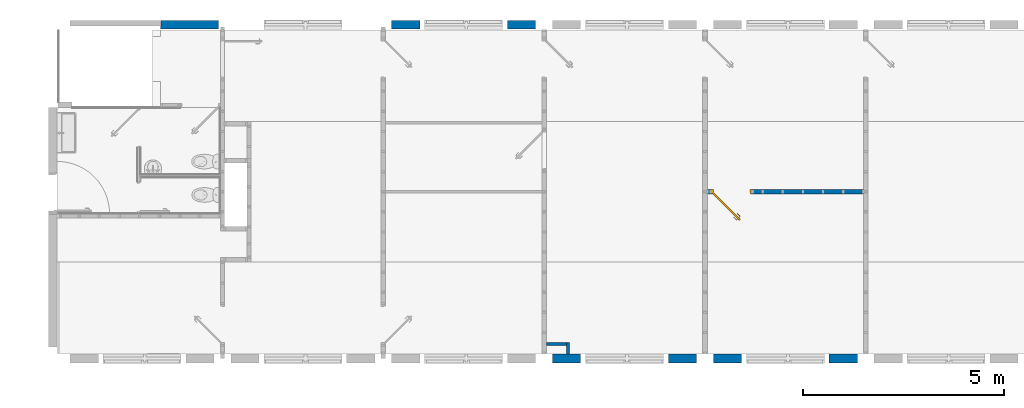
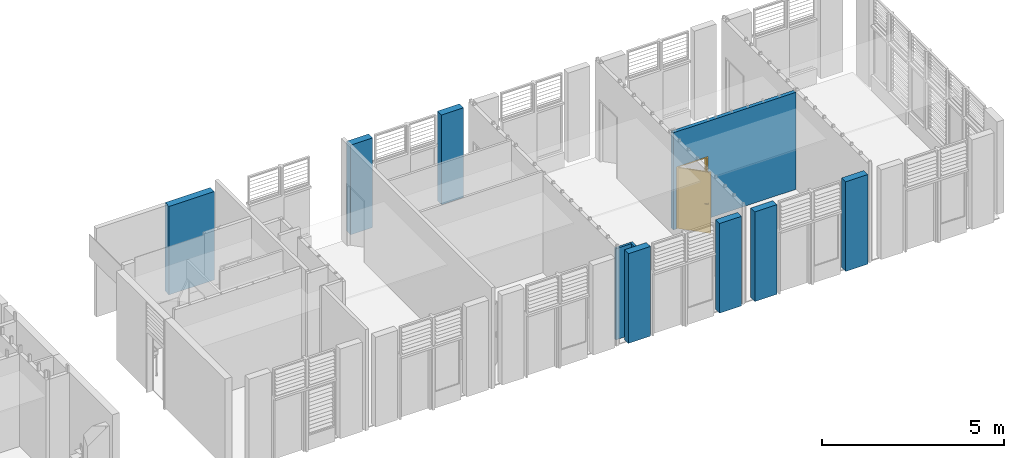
# One storey, part 11 of 20: 10 walls, 1 door, 1 opening.
"""IFC2X3 building model written with IfcOpenShell, lengths in metres."""

from ifc_helpers import new_model, entity, si_unit, converted_unit, derived_unit, direction, frame, frame_2d, origin, place, context, subcontext, project, spatial, polyline, rectangle, extrude, clip, bounded_halfspace, faceted_brep, source, transform, mapped, material, layer, layer_set, layer_usage, type_object, type_shapes, element, fill, save


model = new_model("IFC2X3")

# Units and contexts
model_context = context("Model", 3, precision=1e-05, world=origin(), true_north=direction((6.12303176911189e-17, 1.0)))
body_context = subcontext(model_context, "Body", "Model", "MODEL_VIEW")
ifc_project = project(units=[si_unit("LENGTHUNIT", "METRE"), si_unit("AREAUNIT", "SQUARE_METRE"), si_unit("VOLUMEUNIT", "CUBIC_METRE"), converted_unit("PLANEANGLEUNIT", "DEGREE", entity("IfcRatioMeasure", 0.0174532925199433), si_unit("PLANEANGLEUNIT", "RADIAN"), dimensions=[0, 0, 0, 0, 0, 0, 0]), si_unit("MASSUNIT", "GRAM", prefix="KILO"), derived_unit("MASSDENSITYUNIT", [(si_unit("MASSUNIT", "GRAM", prefix="KILO"), 1), (si_unit("LENGTHUNIT", "METRE"), -3)]), si_unit("TIMEUNIT", "SECOND"), si_unit("FREQUENCYUNIT", "HERTZ"), si_unit("THERMODYNAMICTEMPERATUREUNIT", "DEGREE_CELSIUS"), derived_unit("THERMALTRANSMITTANCEUNIT", [(si_unit("MASSUNIT", "GRAM", prefix="KILO"), 1), (si_unit("THERMODYNAMICTEMPERATUREUNIT", "KELVIN"), -1), (si_unit("TIMEUNIT", "SECOND"), -3)]), derived_unit("VOLUMETRICFLOWRATEUNIT", [(si_unit("LENGTHUNIT", "METRE"), 3), (si_unit("TIMEUNIT", "SECOND"), -1)]), si_unit("ELECTRICCURRENTUNIT", "AMPERE"), si_unit("ELECTRICVOLTAGEUNIT", "VOLT"), si_unit("POWERUNIT", "WATT"), si_unit("FORCEUNIT", "NEWTON", prefix="KILO"), si_unit("ILLUMINANCEUNIT", "LUX"), si_unit("LUMINOUSFLUXUNIT", "LUMEN"), si_unit("LUMINOUSINTENSITYUNIT", "CANDELA"), derived_unit("USERDEFINED", [(si_unit("MASSUNIT", "GRAM", prefix="KILO"), -1), (si_unit("LENGTHUNIT", "METRE"), -2), (si_unit("TIMEUNIT", "SECOND"), 3), (si_unit("LUMINOUSFLUXUNIT", "LUMEN"), 1)]), derived_unit("LINEARVELOCITYUNIT", [(si_unit("LENGTHUNIT", "METRE"), 1), (si_unit("TIMEUNIT", "SECOND"), -1)]), si_unit("PRESSUREUNIT", "PASCAL"), derived_unit("USERDEFINED", [(si_unit("LENGTHUNIT", "METRE"), -2), (si_unit("MASSUNIT", "GRAM", prefix="KILO"), 1), (si_unit("TIMEUNIT", "SECOND"), -2)])], contexts=[model_context])

# Site, building, storey
site_placement = place(None, origin())
site = spatial("IfcSite", under=ifc_project, at=site_placement, Name="Surface", CompositionType="ELEMENT")
building_placement = place(site_placement, origin())
building = spatial("IfcBuilding", under=site, at=building_placement, Name="ExPREF", CompositionType="ELEMENT")
storey_placement = place(building_placement, frame((0.0, 0.0, 4.27)))
storey = spatial("IfcBuildingStorey", under=building, at=storey_placement, Name="R+1", CompositionType="ELEMENT", Elevation=4.27)

# Wall, opening, door
ifc_material_1 = material(Name="AA-mur cloison finition")
ifc_layer_1 = layer(ifc_material_1, 0.018)
ifc_material_2 = material(Name="AA-isolant plancher")
ifc_layer_2 = layer(ifc_material_2, 0.08)
ifc_layer_3 = layer(ifc_material_1, 0.018)
ifc_layer_set_1 = layer_set([ifc_layer_1, ifc_layer_2, ifc_layer_3], Name="Mur de base:A-cloison CP 11.6 cm")
ifc_layer_usage_1 = layer_usage(ifc_layer_set_1, "AXIS2", "NEGATIVE", 0.058)
wall_type_1 = type_object("IfcWallType", Name="Mur de base:A-cloison CP 11.6 cm", PredefinedType="STANDARD", material=ifc_layer_set_1)
wall_1_placement = place(storey_placement, frame((65.4317436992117, -189.208069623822, 0.0), z_axis=(0.0, 0.0, 1.0), x_axis=(-1.0, 0.0, 0.0)))
wall_1 = element("IfcWallStandardCase", 1, at=wall_1_placement, inside=storey, type_object=wall_type_1, material=ifc_layer_usage_1, Name="Mur de base:A-cloison CP 11.6 cm", ObjectType="Mur de base:A-cloison CP 11.6 cm", context=body_context, shape_type="SweptSolid", body=[
    extrude(rectangle(XDim=3.88399999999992, YDim=0.115999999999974, at=frame_2d((1.94199999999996, 0.0), x_axis=(-1.0, 0.0))), origin(), (0.0, 0.0, 1.0), 3.24999999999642),
])
opening_placement = place(wall_1_placement, frame((2.77700000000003, -0.058, 0.0)))
opening = element("IfcOpeningElement", 2, at=opening_placement, cuts=wall_1, Name="Porte intérieur bois:PP (0.93m x 2.04m):1", ObjectType="Opening", context=body_context, shape_type="SweptSolid", body=[
    extrude(rectangle(XDim=2.075, YDim=1.0, at=frame_2d((1.0375, 0.5), x_axis=(1.0, 0.0))), frame((0.0, 0.0, 0.0), z_axis=(0.0, 1.0, 0.0), x_axis=(0.0, 0.0, 1.0)), (0.0, 0.0, 1.0), 0.116),
])
ifc_material_3 = material(Name="AA-Blanc satiné")
door_style = type_object("IfcDoorStyle", Name="PP (0.93m x 2.04m)", ConstructionType="NOTDEFINED", OperationType="SINGLE_SWING_RIGHT", ParameterTakesPrecedence=False, Sizeable=False, material=ifc_material_3)
shared_shape = source(origin(), body_context, "Body", "Brep", [
    faceted_brep([(0.750570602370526, -0.581930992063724, 0.992219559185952), (0.753434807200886, -0.584795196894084, 0.99221955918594), (0.756245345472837, -0.587605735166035, 0.992999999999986), (0.756245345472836, -0.587605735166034, 1.007), (0.75343480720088, -0.584795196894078, 1.00778044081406), (0.75057060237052, -0.581930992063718, 1.00778044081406), (0.747760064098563, -0.579120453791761, 1.007), (0.747760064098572, -0.57912045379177, 0.993000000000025), (0.763659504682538, -0.563221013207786, 1.007), (0.763659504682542, -0.563221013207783, 0.993000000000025), (0.767634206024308, -0.56486738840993, 1.00778044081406), (0.771684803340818, -0.56654520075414, 1.00778044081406), (0.771684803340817, -0.543654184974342, 1.00778044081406), (0.767634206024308, -0.545331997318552, 1.00778044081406), (0.775659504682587, -0.568191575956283, 1.007), (0.775659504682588, -0.568191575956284, 0.992999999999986), (0.771684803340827, -0.566545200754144, 0.99221955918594), (0.767634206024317, -0.564867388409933, 0.992219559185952), (0.767634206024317, -0.545331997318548, 0.992219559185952), (0.771684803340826, -0.543654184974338, 0.99221955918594), (0.763659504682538, -0.546978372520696, 1.007), (0.763659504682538, -0.546978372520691, 0.993000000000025), (0.775659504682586, -0.542007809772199, 1.007), (0.775659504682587, -0.542007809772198, 0.992999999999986), (0.708090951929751, -0.485788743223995, 1.00778044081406), (0.710955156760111, -0.482924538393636, 1.00778044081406), (0.713765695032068, -0.480114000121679, 1.007), (0.713765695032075, -0.480114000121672, 0.992999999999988), (0.710955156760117, -0.48292453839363, 0.99221955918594), (0.708090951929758, -0.485788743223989, 0.992219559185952), (0.705280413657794, -0.488599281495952, 0.993000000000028), (0.705280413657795, -0.488599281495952, 1.007), (0.734469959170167, -0.517788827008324, 1.007), (0.734469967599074, -0.517788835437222, 0.993000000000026), (0.739294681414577, -0.51412826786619, 1.0078786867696), (0.747424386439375, -0.513772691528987, 1.007), (0.747424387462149, -0.513772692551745, 0.992999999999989), (0.739294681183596, -0.514128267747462, 0.992121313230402)], [[[0, 1, 2, 3, 4, 5, 6, 7]], [[8, 9, 7, 6]], [[5, 10, 8, 6]], [[5, 4, 11, 12, 13, 10]], [[3, 14, 11, 4]], [[14, 3, 2, 15]], [[2, 1, 16, 15]], [[1, 0, 17, 18, 19, 16]], [[0, 7, 9, 17]], [[20, 21, 9, 8]], [[8, 10, 13, 20]], [[14, 22, 12, 11]], [[23, 22, 14, 15]], [[15, 16, 19, 23]], [[17, 9, 21, 18]], [[24, 25, 26, 27, 28, 29, 30, 31]], [[21, 20, 32, 31, 30, 33]], [[34, 24, 32]], [[25, 34, 35]], [[13, 32, 20]], [[24, 31, 32]], [[25, 35, 26]], [[35, 12, 22]], [[34, 12, 35]], [[34, 13, 12]], [[34, 32, 13]], [[24, 34, 25]], [[22, 23, 36, 27, 26, 35]], [[37, 28, 36]], [[36, 28, 27]], [[36, 23, 19]], [[18, 33, 37]], [[33, 18, 21]], [[30, 29, 33]], [[37, 29, 28]], [[37, 33, 29]], [[37, 36, 19]], [[18, 37, 19]]]),
    faceted_brep([(0.715215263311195, -0.617286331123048, 1.00778044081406), (0.718079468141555, -0.620150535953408, 1.00778044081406), (0.720890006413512, -0.622961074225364, 1.00699999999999), (0.720890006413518, -0.622961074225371, 0.992999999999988), (0.718079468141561, -0.620150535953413, 0.99221955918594), (0.715215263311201, -0.617286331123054, 0.992219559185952), (0.712404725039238, -0.614475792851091, 0.993000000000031), (0.712404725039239, -0.614475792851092, 1.007), (0.699691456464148, -0.638538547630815, 1.00778044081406), (0.701337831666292, -0.642513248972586, 1.007), (0.698013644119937, -0.634487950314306, 1.00778044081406), (0.678672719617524, -0.634487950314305, 1.00778044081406), (0.676994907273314, -0.638538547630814, 1.00778044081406), (0.696367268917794, -0.630513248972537, 1.007), (0.696367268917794, -0.630513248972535, 0.993000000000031), (0.698013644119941, -0.634487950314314, 0.992219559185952), (0.699691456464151, -0.638538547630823, 0.99221955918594), (0.676994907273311, -0.638538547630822, 0.99221955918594), (0.678672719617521, -0.634487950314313, 0.992219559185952), (0.701337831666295, -0.642513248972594, 0.992999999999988), (0.67534853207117, -0.642513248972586, 1.007), (0.680319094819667, -0.630513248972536, 1.007), (0.680319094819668, -0.630513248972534, 0.993000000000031), (0.675348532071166, -0.642513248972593, 0.992999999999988), (0.613376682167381, -0.580541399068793, 1.007), (0.616187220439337, -0.577730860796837, 1.00778044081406), (0.619051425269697, -0.574866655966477, 1.00778044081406), (0.621861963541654, -0.57205611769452, 1.00699999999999), (0.621861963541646, -0.572056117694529, 0.993000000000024), (0.619051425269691, -0.574866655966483, 0.992219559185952), (0.616187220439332, -0.577730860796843, 0.99221955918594), (0.613376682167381, -0.580541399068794, 0.992999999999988), (0.647429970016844, -0.606109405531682, 1.0078786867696), (0.647113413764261, -0.614278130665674, 1.007), (0.651090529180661, -0.601284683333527, 1.007), (0.651090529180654, -0.601284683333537, 0.993000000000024), (0.64742997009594, -0.606109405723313, 0.992121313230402), (0.64711341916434, -0.61427813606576, 0.992999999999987)], [[[0, 1, 2, 3, 4, 5, 6, 7]], [[2, 1, 8, 9]], [[1, 0, 10, 11, 12, 8]], [[0, 7, 13, 10]], [[14, 13, 7, 6]], [[5, 15, 14, 6]], [[5, 4, 16, 17, 18, 15]], [[3, 19, 16, 4]], [[9, 19, 3, 2]], [[9, 8, 12, 20]], [[10, 13, 21, 11]], [[22, 21, 13, 14]], [[14, 15, 18, 22]], [[16, 19, 23, 17]], [[20, 23, 19, 9]], [[24, 25, 26, 27, 28, 29, 30, 31]], [[32, 25, 33]], [[33, 25, 24]], [[33, 20, 12]], [[11, 34, 32]], [[34, 11, 21]], [[27, 26, 34]], [[32, 26, 25]], [[32, 34, 26]], [[32, 33, 12]], [[11, 32, 12]], [[21, 22, 35, 28, 27, 34]], [[36, 29, 35]], [[30, 36, 37]], [[18, 35, 22]], [[29, 28, 35]], [[30, 37, 31]], [[37, 17, 23]], [[36, 17, 37]], [[36, 18, 17]], [[36, 35, 18]], [[29, 36, 30]], [[23, 20, 33, 24, 31, 37]]]),
    faceted_brep([(0.762609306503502, -0.601040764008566, 0.870000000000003), (0.762609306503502, -0.601040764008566, 1.08), (0.75578767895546, -0.594219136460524, 1.08399601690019), (0.748467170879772, -0.586898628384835, 1.08535898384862), (0.741146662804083, -0.579578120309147, 1.08399601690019), (0.734325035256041, -0.572756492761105, 1.08), (0.73432503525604, -0.572756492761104, 0.870000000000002), (0.741146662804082, -0.579578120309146, 0.866003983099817), (0.748467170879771, -0.586898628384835, 0.86464101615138), (0.755787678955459, -0.594219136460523, 0.866003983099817), (0.752002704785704, -0.583363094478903, 1.08535898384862), (0.759323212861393, -0.590683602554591, 1.08399601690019), (0.766144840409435, -0.597505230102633, 1.08), (0.766144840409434, -0.597505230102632, 0.870000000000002), (0.759323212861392, -0.59068360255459, 0.866003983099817), (0.752002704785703, -0.583363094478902, 0.86464101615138), (0.744682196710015, -0.576042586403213, 0.866003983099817), (0.737860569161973, -0.569220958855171, 0.870000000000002), (0.737860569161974, -0.569220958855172, 1.08), (0.744682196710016, -0.576042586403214, 1.08399601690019)], [[[0, 1, 2, 3, 4, 5, 6, 7, 8, 9]], [[10, 11, 12, 13, 14, 15, 16, 17, 18, 19]], [[4, 19, 18, 5]], [[3, 10, 19, 4]], [[2, 11, 10, 3]], [[2, 1, 12, 11]], [[13, 12, 1, 0]], [[9, 14, 13, 0]], [[8, 15, 14, 9]], [[7, 16, 15, 8]], [[7, 6, 17, 16]], [[17, 6, 5, 18]]]),
    faceted_brep([(0.730789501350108, -0.632860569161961, 0.870000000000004), (0.730789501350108, -0.632860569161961, 1.08), (0.723967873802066, -0.626038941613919, 1.08399601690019), (0.716647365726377, -0.61871843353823, 1.08535898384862), (0.709326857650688, -0.611397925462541, 1.08399601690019), (0.702505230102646, -0.604576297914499, 1.08), (0.702505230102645, -0.604576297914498, 0.870000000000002), (0.709326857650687, -0.61139792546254, 0.866003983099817), (0.716647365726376, -0.618718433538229, 0.86464101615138), (0.723967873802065, -0.626038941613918, 0.866003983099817), (0.73432503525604, -0.629325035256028, 1.08), (0.73432503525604, -0.629325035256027, 0.870000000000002), (0.727503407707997, -0.622503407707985, 0.866003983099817), (0.720182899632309, -0.615182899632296, 0.86464101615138), (0.71286239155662, -0.607862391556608, 0.866003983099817), (0.706040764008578, -0.601040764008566, 0.870000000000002), (0.706040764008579, -0.601040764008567, 1.08), (0.712862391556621, -0.607862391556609, 1.08399601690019), (0.72018289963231, -0.615182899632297, 1.08535898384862), (0.727503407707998, -0.622503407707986, 1.08399601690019)], [[[0, 1, 2, 3, 4, 5, 6, 7, 8, 9]], [[10, 11, 12, 13, 14, 15, 16, 17, 18, 19]], [[9, 12, 11, 0]], [[8, 13, 12, 9]], [[7, 14, 13, 8]], [[7, 6, 15, 14]], [[15, 6, 5, 16]], [[4, 17, 16, 5]], [[3, 18, 17, 4]], [[2, 19, 18, 3]], [[2, 1, 10, 19]], [[11, 10, 1, 0]]]),
    faceted_brep([(0.790893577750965, -0.629325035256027, 2.04), (0.790893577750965, -0.629325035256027, 0.0), (0.133284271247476, 0.0282842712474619, 0.0), (0.133284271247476, 0.0282842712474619, 2.04), (0.762609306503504, -0.657609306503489, 2.04), (0.105000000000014, 0.0, 2.04), (0.105000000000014, 0.0, 0.0), (0.762609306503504, -0.657609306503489, 0.0)], [[[0, 1, 2, 3]], [[4, 5, 6, 7]], [[3, 5, 4, 0]], [[2, 6, 5, 3]], [[1, 7, 6, 2]], [[0, 4, 7, 1]]]),
    faceted_brep([(1.07000000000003, 0.0, 0.0), (1.03500000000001, 0.0, 0.0), (1.03500000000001, 0.0400000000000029, 0.0), (1.02000000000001, 0.0400000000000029, 0.0), (1.02000000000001, 0.116000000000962, 0.0), (1.07000000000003, 0.116000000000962, 0.0), (1.07000000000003, 0.116000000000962, 2.07500000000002), (1.07000000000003, 0.0, 2.07500000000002), (1.02000000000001, 0.116000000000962, 2.025), (0.120000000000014, 0.116000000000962, 2.025), (0.120000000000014, 0.116000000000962, 0.0), (0.0699999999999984, 0.116000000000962, 0.0), (0.0699999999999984, 0.116000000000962, 2.07500000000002), (1.02000000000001, 0.0400000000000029, 2.025), (1.03500000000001, 0.0400000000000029, 2.04), (0.105000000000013, 0.0400000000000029, 2.04), (0.105000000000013, 0.0400000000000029, 0.0), (0.120000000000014, 0.0400000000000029, 0.0), (0.120000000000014, 0.0400000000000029, 2.025), (1.03500000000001, 0.0, 2.04), (0.0699999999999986, 0.0, 2.07500000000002), (0.0699999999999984, 0.0, 0.0), (0.105000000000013, 0.0, 0.0), (0.105000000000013, 0.0, 2.04)], [[[0, 1, 2, 3, 4, 5]], [[5, 6, 7, 0]], [[4, 8, 9, 10, 11, 12, 6, 5]], [[3, 13, 8, 4]], [[2, 14, 15, 16, 17, 18, 13, 3]], [[1, 19, 14, 2]], [[0, 7, 20, 21, 22, 23, 19, 1]], [[12, 11, 21, 20]], [[21, 11, 10, 17, 16, 22]], [[18, 17, 10, 9]], [[23, 22, 16, 15]], [[6, 12, 20, 7]], [[13, 18, 9, 8]], [[19, 23, 15, 14]]]),
])
type_shapes(door_style, [shared_shape])
door_placement = place(opening_placement, frame((1.07000000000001, 0.115999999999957, 0.0), z_axis=(0.0, 0.0, 1.0), x_axis=(-1.0, 0.0, 0.0)))
door = element("IfcDoor", 3, at=door_placement, inside=storey, type_object=door_style, material=ifc_material_3, Name="Porte intérieur bois:PP (0.93m x 2.04m)", ObjectType="PP (0.93m x 2.04m)", OverallHeight=2.075, OverallWidth=0.999999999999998, context=body_context, shape_type="MappedRepresentation", body=[
    mapped(shared_shape, transform((0.0, 0.0, 0.0), scale=1.0)),
])
fill(opening, door)

# Walls
ifc_material_4 = material(Name="AA-fermacell peint")
ifc_layer_4 = layer(ifc_material_4, 0.0125)
ifc_layer_5 = layer(ifc_material_2, 0.045)
ifc_layer_6 = layer(ifc_material_4, 0.0125)
ifc_layer_set_2 = layer_set([ifc_layer_4, ifc_layer_5, ifc_layer_6], Name="Mur de base:Générique - Int. 70 mm")
ifc_layer_usage_2 = layer_usage(ifc_layer_set_2, "AXIS2", "NEGATIVE", 0.035)
wall_type_2 = type_object("IfcWallType", Name="Mur de base:Générique - Int. 70 mm", PredefinedType="STANDARD", material=ifc_layer_set_2)
wall_2_placement = place(storey_placement, frame((58.0847904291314, -192.959651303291, 0.0), z_axis=(0.0, 0.0, 1.0), x_axis=(0.0, -1.0, 0.0)))
element("IfcWallStandardCase", 4, at=wall_2_placement, inside=storey, type_object=wall_type_2, material=ifc_layer_usage_2, Name="Mur de base:Générique - Int. 70 mm", ObjectType="Mur de base:Générique - Int. 70 mm", context=body_context, shape_type="SweptSolid", body=[
    extrude(rectangle(XDim=0.289999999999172, YDim=0.0700000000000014, at=frame_2d((0.144999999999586, 0.0), x_axis=(-1.0, 0.0))), origin(), (0.0, 0.0, 1.0), 3.05),
])
ifc_layer_usage_3 = layer_usage(ifc_layer_set_2, "AXIS2", "NEGATIVE", 0.035)
wall_3_placement = place(storey_placement, frame((57.5514738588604, -192.994651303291, 0.0)))
element("IfcWallStandardCase", 5, at=wall_3_placement, inside=storey, type_object=wall_type_2, material=ifc_layer_usage_3, Name="Mur de base:Générique - Int. 70 mm", ObjectType="Mur de base:Générique - Int. 70 mm", context=body_context, shape_type="SweptSolid", body=[
    extrude(rectangle(XDim=0.498316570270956, YDim=0.0700000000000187, at=frame_2d((0.249158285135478, 0.0), x_axis=(-1.0, 0.0))), origin(), (0.0, 0.0, 1.0), 3.05),
])
ifc_material_5 = material(Name="AA-BTC")
ifc_layer_7 = layer(ifc_material_5, 0.22)
ifc_layer_set_3 = layer_set([ifc_layer_7], Name="Mur de base:A-prémur BTC")
ifc_layer_usage_4 = layer_usage(ifc_layer_set_3, "AXIS2", "POSITIVE", -0.11)
wall_type_3 = type_object("IfcWallType", Name="Mur de base:A-prémur BTC", PredefinedType="STANDARD", material=ifc_layer_set_3)
wall_4_placement = place(storey_placement, frame((47.949743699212, -185.05648794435, 0.0999999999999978)))
element("IfcWallStandardCase", 6, at=wall_4_placement, inside=storey, type_object=wall_type_3, material=ifc_layer_usage_4, Name="Mur de base:A-prémur BTC", ObjectType="Mur de base:A-prémur BTC", context=body_context, shape_type="Clipping", body=[
    clip(clip(extrude(rectangle(XDim=1.43999990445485, YDim=0.220000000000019, at=frame_2d((0.719999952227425, 6.56419363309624e-15), x_axis=(-1.0, 0.0))), origin(), (0.0, 0.0, 1.0), 2.96), bounded_halfspace(frame((0.00456993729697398, -0.0300000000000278, 2.96), z_axis=(0.0, -1.0, 0.0), x_axis=(1.0, 0.0, 0.0)), True, frame((0.00456993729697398, -0.0300000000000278, 2.96), z_axis=(0.0, -1.0, 0.0), x_axis=(1.0, 0.0, 0.0)), polyline([(0.0, 0.0), (-0.00456993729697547, 0.0), (-0.00456993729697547, -2.96), (0.0, -2.96), (0.0, 0.0)]))), bounded_halfspace(frame((0.00456993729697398, -0.0300000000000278, 0.0), z_axis=(1.0, 0.0, 0.0), x_axis=(0.0, 1.0, 0.0)), True, frame((0.00456993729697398, -0.0300000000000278, 0.0), z_axis=(1.0, 0.0, 0.0), x_axis=(0.0, 1.0, 0.0)), polyline([(0.0, 0.0), (0.140000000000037, 0.0), (0.140000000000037, 2.96), (0.0, 2.96), (0.0, 0.0)]))),
])
ifc_layer_usage_5 = layer_usage(ifc_layer_set_3, "AXIS2", "NEGATIVE", 0.11)
wall_5_placement = place(storey_placement, frame((57.6997436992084, -193.35965130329, 0.0999999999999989)))
element("IfcWallStandardCase", 7, at=wall_5_placement, inside=storey, type_object=wall_type_3, material=ifc_layer_usage_5, Name="Mur de base:A-prémur BTC", ObjectType="Mur de base:A-prémur BTC", context=body_context, shape_type="SweptSolid", body=[
    extrude(rectangle(XDim=0.699999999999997, YDim=0.220000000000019, at=frame_2d((0.349999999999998, -4.47558656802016e-15), x_axis=(-1.0, 0.0))), origin(), (0.0, 0.0, 1.0), 3.0),
])
ifc_layer_usage_6 = layer_usage(ifc_layer_set_3, "AXIS2", "POSITIVE", -0.11)
wall_6_placement = place(storey_placement, frame((61.2797436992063, -193.35965130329, 0.0999999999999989), z_axis=(0.0, 0.0, 1.0), x_axis=(-1.0, 0.0, 0.0)))
element("IfcWallStandardCase", 8, at=wall_6_placement, inside=storey, type_object=wall_type_3, material=ifc_layer_usage_6, Name="Mur de base:A-prémur BTC", ObjectType="Mur de base:A-prémur BTC", context=body_context, shape_type="SweptSolid", body=[
    extrude(rectangle(XDim=0.700000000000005, YDim=0.220000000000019, at=frame_2d((0.350000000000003, -4.47558656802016e-15), x_axis=(-1.0, 0.0))), origin(), (0.0, 0.0, 1.0), 3.0),
])
ifc_layer_usage_7 = layer_usage(ifc_layer_set_3, "AXIS2", "NEGATIVE", 0.11)
wall_7_placement = place(storey_placement, frame((61.6997436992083, -193.35965130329, 0.0999999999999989)))
element("IfcWallStandardCase", 9, at=wall_7_placement, inside=storey, type_object=wall_type_3, material=ifc_layer_usage_7, Name="Mur de base:A-prémur BTC", ObjectType="Mur de base:A-prémur BTC", context=body_context, shape_type="SweptSolid", body=[
    extrude(rectangle(XDim=0.699999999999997, YDim=0.220000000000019, at=frame_2d((0.349999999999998, -4.47558656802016e-15), x_axis=(-1.0, 0.0))), origin(), (0.0, 0.0, 1.0), 3.0),
])
ifc_layer_usage_8 = layer_usage(ifc_layer_set_3, "AXIS2", "POSITIVE", -0.11)
wall_8_placement = place(storey_placement, frame((65.2797436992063, -193.35965130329, 0.0999999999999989), z_axis=(0.0, 0.0, 1.0), x_axis=(-1.0, 0.0, 0.0)))
element("IfcWallStandardCase", 10, at=wall_8_placement, inside=storey, type_object=wall_type_3, material=ifc_layer_usage_8, Name="Mur de base:A-prémur BTC", ObjectType="Mur de base:A-prémur BTC", context=body_context, shape_type="SweptSolid", body=[
    extrude(rectangle(XDim=0.700000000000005, YDim=0.220000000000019, at=frame_2d((0.350000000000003, -4.47558656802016e-15), x_axis=(-1.0, 0.0))), origin(), (0.0, 0.0, 1.0), 3.0),
])
ifc_layer_usage_9 = layer_usage(ifc_layer_set_3, "AXIS2", "POSITIVE", -0.11)
wall_9_placement = place(storey_placement, frame((53.6997436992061, -185.05648794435, 0.0999999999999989)))
element("IfcWallStandardCase", 11, at=wall_9_placement, inside=storey, type_object=wall_type_3, material=ifc_layer_usage_9, Name="Mur de base:A-prémur BTC", ObjectType="Mur de base:A-prémur BTC", context=body_context, shape_type="SweptSolid", body=[
    extrude(rectangle(XDim=0.699999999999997, YDim=0.220000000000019, at=frame_2d((0.349999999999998, 2.34534613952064e-15), x_axis=(-1.0, 0.0))), origin(), (0.0, 0.0, 1.0), 3.0),
])
ifc_layer_usage_10 = layer_usage(ifc_layer_set_3, "AXIS2", "NEGATIVE", 0.11)
wall_10_placement = place(storey_placement, frame((57.279743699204, -185.05648794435, 0.0999999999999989), z_axis=(0.0, 0.0, 1.0), x_axis=(-1.0, 0.0, 0.0)))
element("IfcWallStandardCase", 12, at=wall_10_placement, inside=storey, type_object=wall_type_3, material=ifc_layer_usage_10, Name="Mur de base:A-prémur BTC", ObjectType="Mur de base:A-prémur BTC", context=body_context, shape_type="SweptSolid", body=[
    extrude(rectangle(XDim=0.700000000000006, YDim=0.220000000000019, at=frame_2d((0.350000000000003, 2.34534613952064e-15), x_axis=(-1.0, 0.0))), origin(), (0.0, 0.0, 1.0), 3.0),
])

save(model, "model.ifc")
